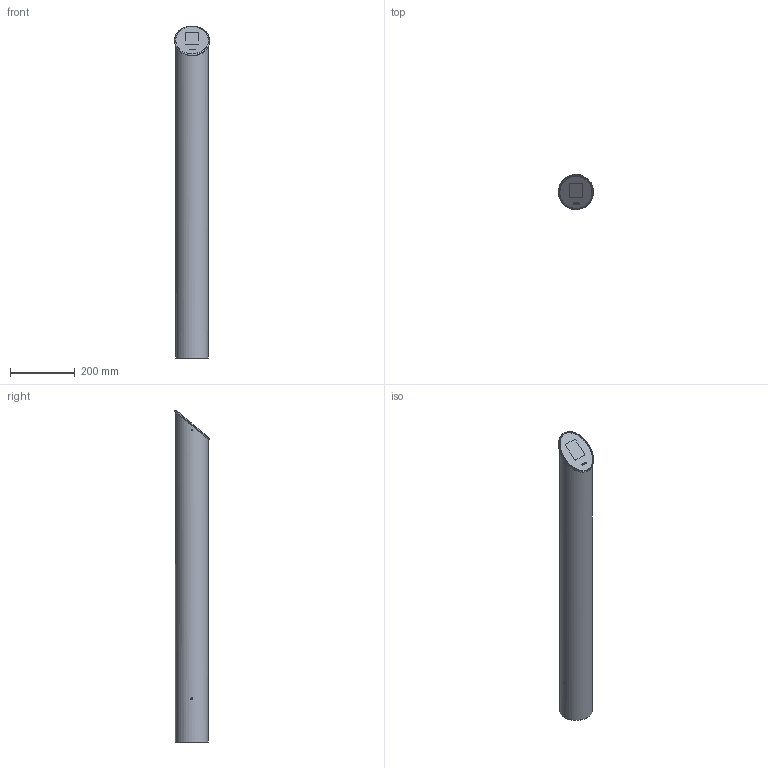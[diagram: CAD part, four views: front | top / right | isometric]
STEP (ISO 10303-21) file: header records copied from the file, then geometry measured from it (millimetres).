
FILE_DESCRIPTION(/* description */ ('Unknown'),/* implementation_level */ '2;1');
FILE_NAME(/* name */ 'IRP01.2',/* time_stamp */ '2021-12-27T11:57:14+03:00',/* author */ ('Unknown'),/* organization */ ('Unknown'),/* preprocessor_version */ 'ST-DEVELOPER v18.1',/* originating_system */ 'Solid Edge',/* authorisation */ 'Unknown');
FILE_SCHEMA (('CONFIG_CONTROL_DESIGN'));
Length unit declared in the file: millimetre
Products named in the file (13): IRP01.2; IRP01.000.01-02 ﾒ矜; IRP01.070.00 Îñíîâàíèå ñòîéêè_oa_0; IRP01.071.00 Îñíîâàíèå ñòîéêè_oa_1; IRP01.071.01 ﾎ魵瑙韃; IRP01.2.020.00 痒栩囹咫黖oa_2; IRP01.021.00 昢膼瘔膻嬅oa_3; IRP01.010.01-02 栺樏鋋; IRP01.040.00 扰鍙欙樥燲oa_4; IRP01.022.00 剖萠oa_5; IRP-02.700.00 砑僗趌oa_6; IRP01.010.05-01 Ðàìêà; ﾂ竟M4x10_DIN_913_淲._ﾀ2
Assembly tree (13 placements, depth 4):
  IRP01.2
    IRP01.000.01-02 ﾒ矜
    IRP01.070.00 Îñíîâàíèå ñòîéêè_oa_0
      IRP01.071.00 Îñíîâàíèå ñòîéêè_oa_1
        IRP01.071.01 ﾎ魵瑙韃
    IRP01.2.020.00 痒栩囹咫黖oa_2
      IRP01.021.00 昢膼瘔膻嬅oa_3
        IRP01.010.01-02 栺樏鋋
        IRP01.040.00 扰鍙欙樥燲oa_4
      IRP01.022.00 剖萠oa_5
      IRP-02.700.00 砑僗趌oa_6
      IRP01.010.05-01 Ðàìêà
    ﾂ竟M4x10_DIN_913_淲._ﾀ2  x2
Bounding box: 108.06 x 108.52 x 1024.85 mm (x, y, z)
Volume: 664702.9 mm3; surface area: 656338.7 mm2
Topology: 6 solids, 6 shells, 197 faces, 497 edges, 332 vertices
Faces by surface type: plane 140, cylinder 41, bspline 8, cone 8
Full cylindrical faces by diameter (mm): 4 x2, 4.2 x2, 6.5 x2, 9 x4, 30 x1, 97.6 x1, 101.6 x1
Entity records: 9730 total; most frequent: CARTESIAN_POINT 3809, ORIENTED_EDGE 876, DIRECTION 876, EDGE_CURVE 438, LINE 326, VECTOR 326, VERTEX_POINT 309, AXIS2_PLACEMENT_3D 275
